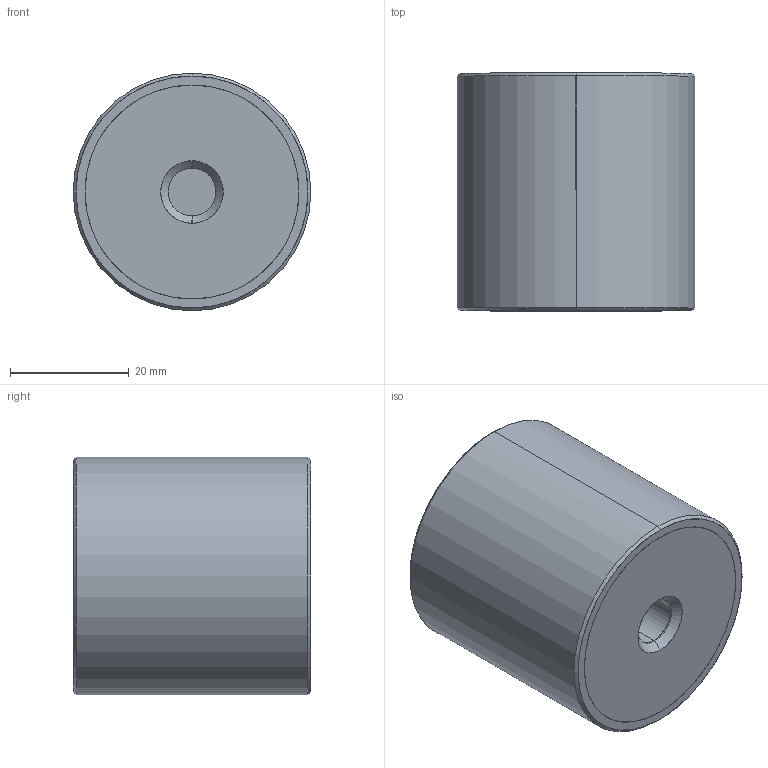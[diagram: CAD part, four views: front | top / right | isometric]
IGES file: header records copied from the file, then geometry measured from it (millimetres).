
Start section: SolidWorks IGES file using analytic representation for surfaces
Global section: file name: E:\WIXROYD 20180701\61080_v2\61080_v2_20180409_IGES\61080.W0402.igs; native system: SolidWorks 2017; preprocessor: SolidWorks 2017; author: liam_; date: 180716.214446; units: millimetre
Bounding box: 40 x 40 x 40 mm (x, y, z)
Surface area: 12384 mm2 (no closed solid volume)
Topology: 0 solids, 0 shells, 36 faces, 1000 edges, 1000 vertices
Faces by surface type: revolution 26, bspline 10
